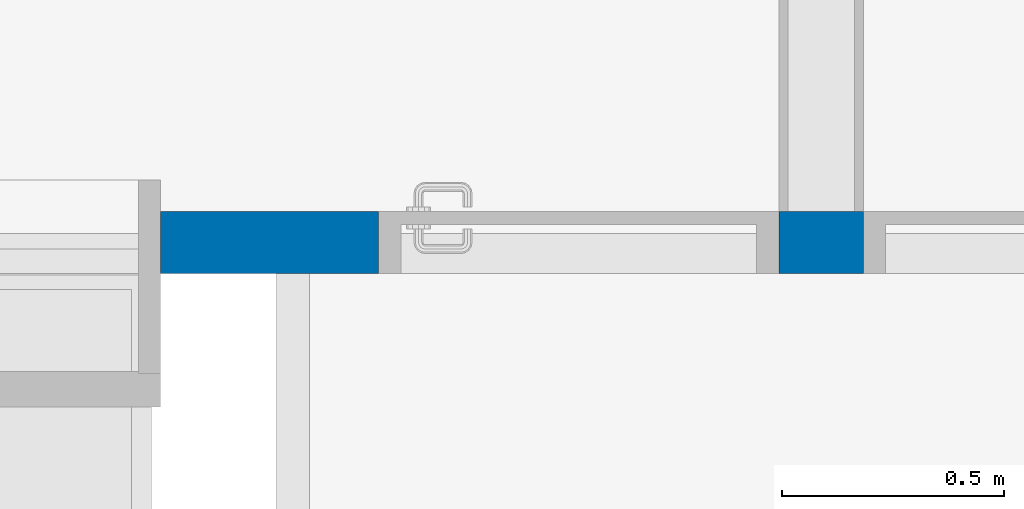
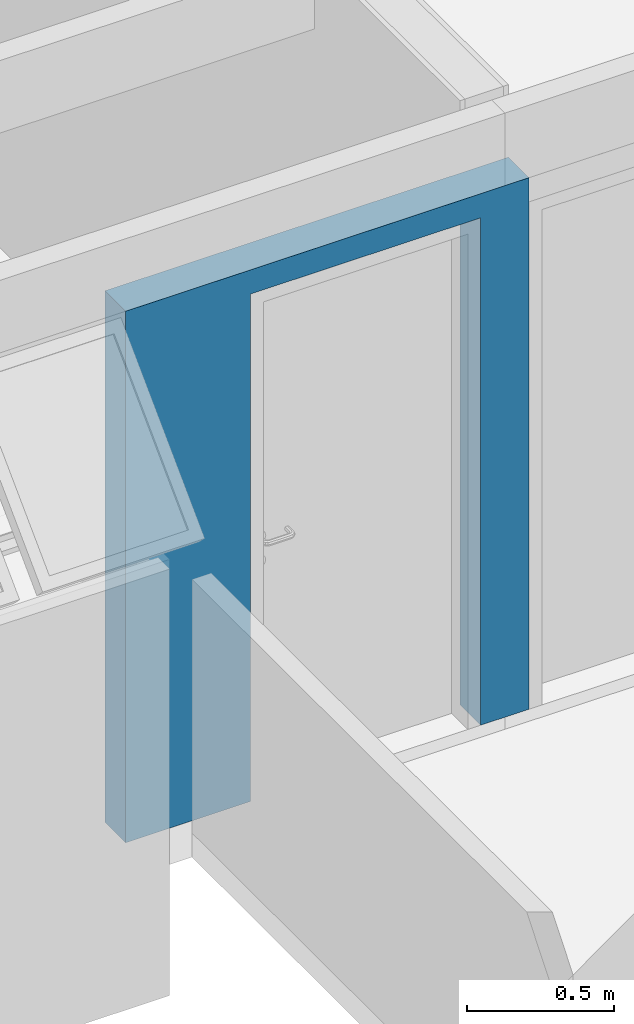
# One storey, part 31 of 40: 1 wall, 1 opening.
"""IFC4 building model written with IfcOpenShell, lengths in millimetres."""

from ifc_helpers import new_model, entity, si_unit, converted_unit, derived_unit, direction, frame, origin_with_axes, origin_2d_with_axis, place, context, subcontext, project, spatial, line, indexed_curve, rectangle, outline, extrude, material, layer, layer_set, layer_usage, type_object, element, save


model = new_model("IFC4")

# Units and contexts
model_context = context("Model", 3, precision=0.01, world=origin_with_axes(), true_north=direction((0.0, 1.0)))
body_context = subcontext(model_context, "Body", "Model", "MODEL_VIEW")
ifc_project = project(units=[si_unit("LENGTHUNIT", "METRE", prefix="MILLI"), si_unit("AREAUNIT", "SQUARE_METRE"), si_unit("VOLUMEUNIT", "CUBIC_METRE"), converted_unit("PLANEANGLEUNIT", "DEGREE", entity("IfcPlaneAngleMeasure", 0.0174532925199), si_unit("PLANEANGLEUNIT", "RADIAN"), dimensions=[0, 0, 0, 0, 0, 0, 0]), converted_unit("TIMEUNIT", "Year", entity("IfcTimeMeasure", 31556926.0), si_unit("TIMEUNIT", "SECOND"), dimensions=[0, 0, 1, 0, 0, 0, 0]), si_unit("MASSUNIT", "GRAM", prefix="KILO"), si_unit("THERMODYNAMICTEMPERATUREUNIT", "DEGREE_CELSIUS"), si_unit("LUMINOUSINTENSITYUNIT", "LUMEN"), si_unit("ENERGYUNIT", "JOULE", prefix="MEGA"), derived_unit("THERMALCONDUCTANCEUNIT", [(si_unit("POWERUNIT", "WATT"), 1), (si_unit("LENGTHUNIT", "METRE"), -1), (si_unit("THERMODYNAMICTEMPERATUREUNIT", "KELVIN"), -1)]), derived_unit("SPECIFICHEATCAPACITYUNIT", [(si_unit("ENERGYUNIT", "JOULE"), 1), (si_unit("MASSUNIT", "GRAM", prefix="KILO"), -1), (si_unit("THERMODYNAMICTEMPERATUREUNIT", "KELVIN"), -1)]), derived_unit("MASSDENSITYUNIT", [(si_unit("MASSUNIT", "GRAM", prefix="KILO"), 1), (si_unit("VOLUMEUNIT", "CUBIC_METRE"), -1)])], contexts=[model_context])

# Site, building, storey
site_placement = place(None, origin_with_axes())
site = spatial("IfcSite", under=ifc_project, at=site_placement, Name="Local", CompositionType="ELEMENT")
building_placement = place(site_placement, origin_with_axes())
building = spatial("IfcBuilding", under=site, at=building_placement, Name="Construção", CompositionType="ELEMENT")
storey_placement = place(building_placement, origin_with_axes())
storey = spatial("IfcBuildingStorey", under=building, at=storey_placement, Name="Primeiro Pavimento", CompositionType="ELEMENT", Elevation=0.0)

# Wall, opening
ifc_material = material(Name="GENÉRICO - VEDAÇÃO EXTERNA")
ifc_layer = layer(ifc_material, 140.0, ventilated="UNKNOWN", Name="GENÉRICO - VEDAÇÃO EXTERNA")
ifc_layer_set = layer_set([ifc_layer], Name="GENÉRICO - VEDAÇÃO EXTERNA 140")
ifc_layer_usage = layer_usage(ifc_layer_set, "AXIS2", "POSITIVE", 0.0)
wall_type = type_object("IfcWallType", Name="GENÉRICO - VEDAÇÃO EXTERNA 140", PredefinedType="NOTDEFINED")
wall_placement = place(storey_placement, frame((7480.0, 18035.0, 0.0), z_axis=(0.0, 0.0, 1.0), x_axis=(-1.0, 0.0, 0.0)))
wall = element("IfcWall", 1, at=wall_placement, inside=storey, type_object=wall_type, material=ifc_layer_usage, Name="APTO3-PAREDE-004", PredefinedType="NOTDEFINED", context=body_context, shape_type="SweptSolid", body=[
    extrude(outline(indexed_curve([(0.0, 0.0), (1580.0, 0.0), (1580.0, 140.0), (0.0, 140.0)], segments=[line(1, 2, 3, 4, 1)])), origin_with_axes(), (0.0, 0.0, 1.0), 2200.0),
])
opening_placement = place(wall_placement, frame((640.0, 0.0, 0.0), z_axis=(0.0, 0.0, 1.0), x_axis=(1.0, 0.0, 0.0)))
element("IfcOpeningElement", 2, at=opening_placement, cuts=wall, Name="APTO3-PORTA-004", context=body_context, shape_type="SweptSolid", body=[
    extrude(rectangle(XDim=900.0, YDim=2100.0, at=origin_2d_with_axis()), frame((0.0, -140.0, 1050.0), z_axis=(0.0, 1.0, 0.0), x_axis=(-1.0, 0.0, 0.0)), (0.0, 0.0, 1.0), 420.0),
])

save(model, "model.ifc")
